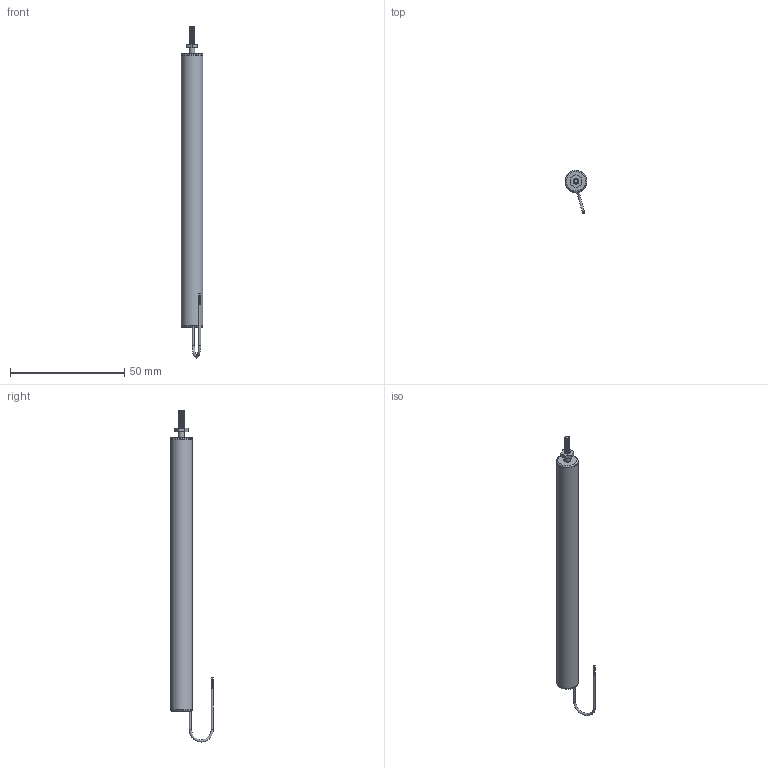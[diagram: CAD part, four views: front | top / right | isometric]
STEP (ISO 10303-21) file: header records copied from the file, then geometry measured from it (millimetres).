
FILE_DESCRIPTION(/* description */ (''),/* implementation_level */ '2;1');
FILE_NAME(/* name */ 'ILPS-9.5Z-075-A-00-YY-S Assembly (wrapped).stp',/* time_stamp */ '2024-06-11T15:31:43-04:00',/* author */ ('Justin'),/* organization */ (''),/* preprocessor_version */ 'ST-DEVELOPER v20',/* originating_system */ 'Autodesk Inventor 2025',/* authorisation */ '');
FILE_SCHEMA (('AUTOMOTIVE_DESIGN { 1 0 10303 214 3 1 1 }'));
Length unit declared in the file: inch
Products named in the file (5): 3020-0020-XX Assembly_SW; 3020-0020-XX Assembly_Simplify_1; 3020-0020-XX Shaft_SW; Wire; BS 4183 - M2.5
Assembly tree (4 placements, depth 2):
  3020-0020-XX Assembly_SW
    3020-0020-XX Assembly_Simplify_1
    3020-0020-XX Shaft_SW
    Wire
    BS 4183 - M2.5
Bounding box: 9.52 x 18.73 x 145.45 mm (x, y, z)
Volume: 1076.6 mm3; surface area: 10537.3 mm2
Topology: 7 solids, 7 shells, 70 faces, 145 edges, 94 vertices
Faces by surface type: plane 37, cylinder 23, cone 4, torus 3, bspline 3
Full cylindrical faces by diameter (mm): 0.203 x10, 1 x2, 2.013 x1, 2.438 x1, 2.667 x1, 3.175 x3, 9.398 x1, 9.525 x2
Entity records: 3979 total; most frequent: CARTESIAN_POINT 2140, DIRECTION 367, ORIENTED_EDGE 290, AXIS2_PLACEMENT_3D 158, EDGE_CURVE 145, VERTEX_POINT 94, EDGE_LOOP 85, CIRCLE 82
